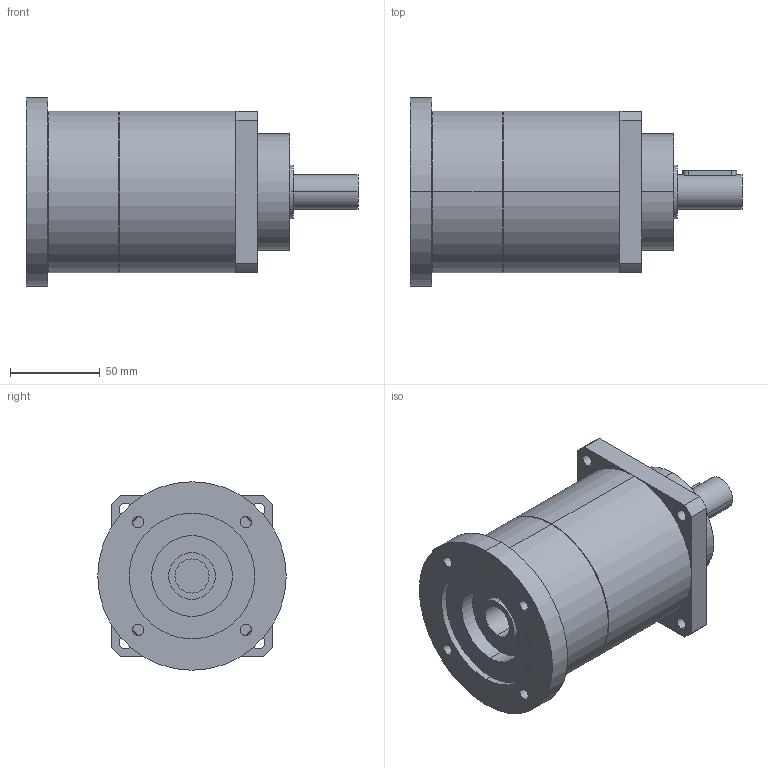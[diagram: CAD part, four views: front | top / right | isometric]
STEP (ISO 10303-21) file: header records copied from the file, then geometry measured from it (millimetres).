
FILE_DESCRIPTION(('CoCreate Modeling STEP Export'),'2;1');
FILE_NAME('GPT90_ig-9-12-16-20-25-28-35-40-50-70-100_19_B5T_19_P04.stp','2015-02-04T11:32:49',(''),(''),'CoCreate Modeling STEP processor for AP214 (Solid Model)','CoCreate Modeling 16.00C 25-Feb-2009 (C) Parametric Technology GmbH','');
FILE_SCHEMA(('AUTOMOTIVE_DESIGN { 1 0 10303 214 1 1 1 1 }'));
Length unit declared in the file: millimetre
Products named in the file (2): GPT90_ig-9-12-16-20-25-28-35-40-50-70-100_19_B5T_19_P04
Assembly tree (1 placements, depth 2):
  GPT90_ig-9-12-16-20-25-28-35-40-50-70-100_19_B5T_19_P04
    GPT90_ig-9-12-16-20-25-28-35-40-50-70-100_19_B5T_19_P04
Bounding box: 185 x 105 x 105 mm (x, y, z)
Volume: 900965.6 mm3; surface area: 71403.1 mm2
Topology: 1 solids, 1 shells, 75 faces, 205 edges, 138 vertices
Faces by surface type: cylinder 44, plane 27, cone 4
Entity records: 2477 total; most frequent: CARTESIAN_POINT 717, ORIENTED_EDGE 410, DIRECTION 294, EDGE_CURVE 205, VERTEX_POINT 138, AXIS2_PLACEMENT_3D 112, EDGE_LOOP 97, FACE_OUTER_BOUND 75
